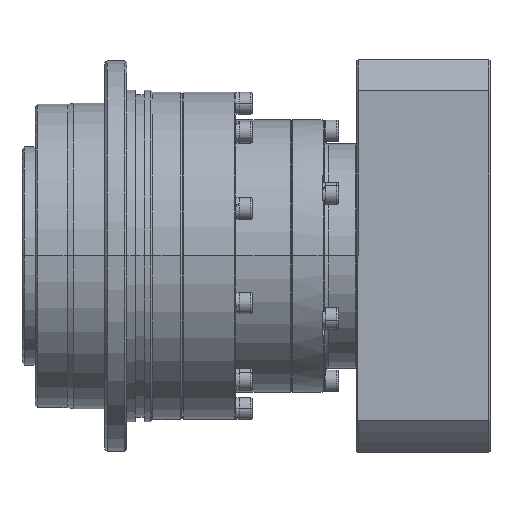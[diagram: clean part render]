
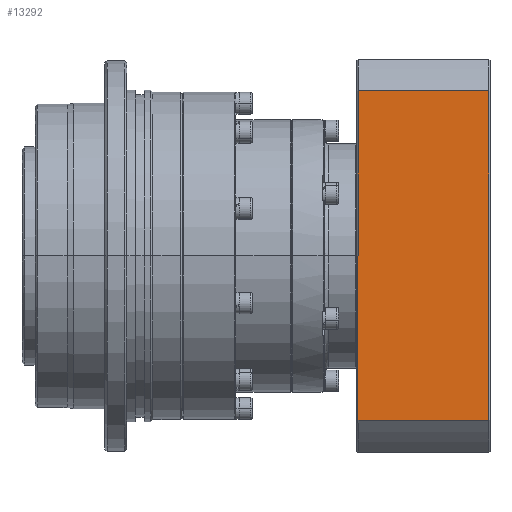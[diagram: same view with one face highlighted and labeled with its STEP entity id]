
A CAD part, top view. The second image highlights one B-rep face of the part: STEP entity #13292.
In plain terms, the highlighted planar face has unit normal (0, 0, 1).
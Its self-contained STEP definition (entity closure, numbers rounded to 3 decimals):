
#1194 = VERTEX_POINT ( 'NONE', #23279 ) ;
#1519 = CARTESIAN_POINT ( 'NONE',  ( 60.5, -75.54, 90. ) ) ;
#1831 = DIRECTION ( 'NONE',  ( 0., 1., 0. ) ) ;
#2028 = LINE ( 'NONE', #16251, #7799 ) ;
#2676 = EDGE_CURVE ( 'NONE', #15466, #1194, #2028, .T. ) ;
#3325 = EDGE_LOOP ( 'NONE', ( #24048, #22407, #10015, #10967 ) ) ;
#3916 = LINE ( 'NONE', #22997, #23326 ) ;
#4164 = VECTOR ( 'NONE', #1831, 1000. ) ;
#4245 = VERTEX_POINT ( 'NONE', #23759 ) ;
#5384 = PLANE ( 'NONE',  #16804 ) ;
#5658 = CARTESIAN_POINT ( 'NONE',  ( 60.5, 75.54, 90. ) ) ;
#7111 = DIRECTION ( 'NONE',  ( 0., -1., 0. ) ) ;
#7364 = CARTESIAN_POINT ( 'NONE',  ( 0., -90., 90. ) ) ;
#7799 = VECTOR ( 'NONE', #18180, 1000. ) ;
#8656 = FACE_OUTER_BOUND ( 'NONE', #3325, .T. ) ;
#9024 = DIRECTION ( 'NONE',  ( 0., 1., 0. ) ) ;
#10015 = ORIENTED_EDGE ( 'NONE', *, *, #2676, .F. ) ;
#10438 = EDGE_CURVE ( 'NONE', #19327, #4245, #3916, .T. ) ;
#10967 = ORIENTED_EDGE ( 'NONE', *, *, #14158, .T. ) ;
#13292 = ADVANCED_FACE ( 'NONE', ( #8656 ), #5384, .T. ) ;
#14158 = EDGE_CURVE ( 'NONE', #15466, #19327, #20019, .T. ) ;
#14901 = VECTOR ( 'NONE', #9024, 1000. ) ;
#15466 = VERTEX_POINT ( 'NONE', #1519 ) ;
#16251 = CARTESIAN_POINT ( 'NONE',  ( 0., -75.54, 90. ) ) ;
#16804 = AXIS2_PLACEMENT_3D ( 'NONE', #7364, #24768, #7111 ) ;
#18180 = DIRECTION ( 'NONE',  ( -1., 0., 0. ) ) ;
#18867 = DIRECTION ( 'NONE',  ( -1., 0., 0. ) ) ;
#19327 = VERTEX_POINT ( 'NONE', #5658 ) ;
#20019 = LINE ( 'NONE', #23904, #14901 ) ;
#20233 = LINE ( 'NONE', #22681, #4164 ) ;
#21374 = EDGE_CURVE ( 'NONE', #1194, #4245, #20233, .T. ) ;
#22407 = ORIENTED_EDGE ( 'NONE', *, *, #21374, .F. ) ;
#22681 = CARTESIAN_POINT ( 'NONE',  ( 0.5, -90., 90. ) ) ;
#22997 = CARTESIAN_POINT ( 'NONE',  ( 0., 75.54, 90. ) ) ;
#23279 = CARTESIAN_POINT ( 'NONE',  ( 0.5, -75.54, 90. ) ) ;
#23326 = VECTOR ( 'NONE', #18867, 1000. ) ;
#23759 = CARTESIAN_POINT ( 'NONE',  ( 0.5, 75.54, 90. ) ) ;
#23904 = CARTESIAN_POINT ( 'NONE',  ( 60.5, -90., 90. ) ) ;
#24048 = ORIENTED_EDGE ( 'NONE', *, *, #10438, .T. ) ;
#24768 = DIRECTION ( 'NONE',  ( 0., 0., 1. ) ) ;
